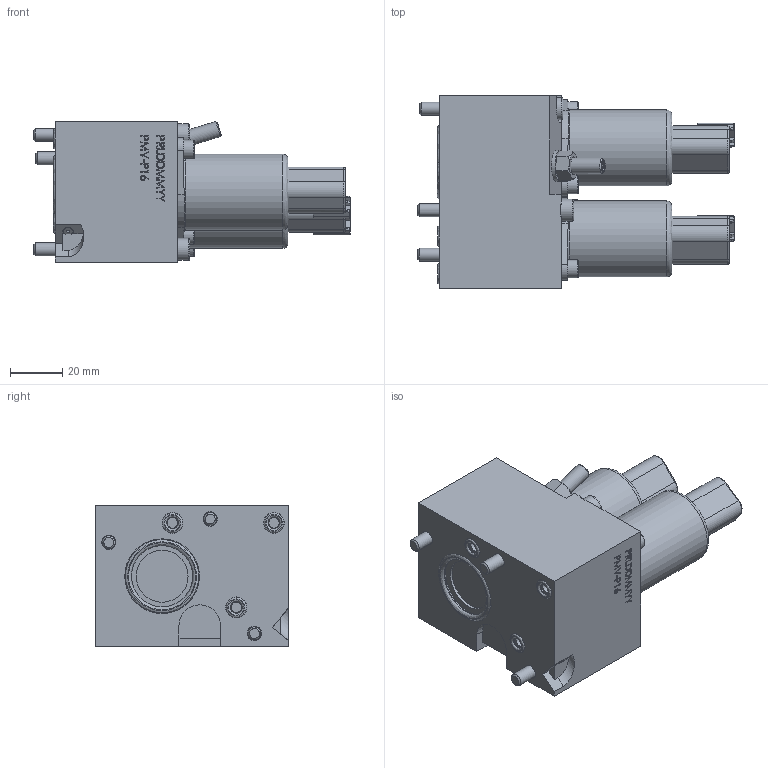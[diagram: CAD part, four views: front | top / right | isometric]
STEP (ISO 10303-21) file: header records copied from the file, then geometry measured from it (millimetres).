
FILE_DESCRIPTION (( 'STEP AP214' ), '1' );
FILE_NAME ('0301586.STEP', '2022-06-22T13:24:32', ( '' ), ( '' ), 'SwSTEP 2.0', 'SolidWorks 2020', '' );
FILE_SCHEMA (( 'AUTOMOTIVE_DESIGN' ));
Length unit declared in the file: millimetre
Products named in the file (12): 0284977_002; 0074748_246.2151; 0073842_153.2301; 0301586; 0074748_246.2156; 0074669_079.3160; 0283782_001; 0074697_246.1510; 0283782_008; 0291149_002; 0290158_001; 0290158_010
Assembly tree (22 placements, depth 2):
  0301586
    0284977_002
    0074748_246.2156  x2
    0074748_246.2151
    0073842_153.2301
    0074669_079.3160
    0290158_010
    0290158_001  x3
    0283782_001  x5
    0283782_008
    0291149_002  x2
    0074697_246.1510  x4
Bounding box: 121.8 x 74 x 54.16 mm (x, y, z)
Volume: 204982.6 mm3; surface area: 62052.4 mm2
Topology: 30 solids, 34 shells, 1188 faces, 2829 edges, 1779 vertices
Faces by surface type: plane 553, cylinder 249, cone 202, bspline 164, torus 20
Full cylindrical faces by diameter (mm): 0.6 x6, 1.1 x6, 1.56 x4, 1.6 x4, 2.4 x16, 3.3 x4, 3.5 x6, 3.767 x6, 3.8 x2, 4 x12, 4.47 x3, 4.5 x4, 5 x5, 5.037 x2, 5.5 x3, 6 x1, 6.9 x2, 7 x4, 7.8 x3, 8 x2, 8.03 x3, 8.39 x2, 8.5 x3, 8.6 x2, 8.9 x2, 9 x4, 9.1 x6, 9.5 x2, 9.9 x2, 10.1 x4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
Entity records: 46922 total; most frequent: CARTESIAN_POINT 29771, ORIENTED_EDGE 3046, DIRECTION 2930, EDGE_CURVE 1523, VERTEX_POINT 1090, EDGE_LOOP 1045, AXIS2_PLACEMENT_3D 1028, VECTOR 874
